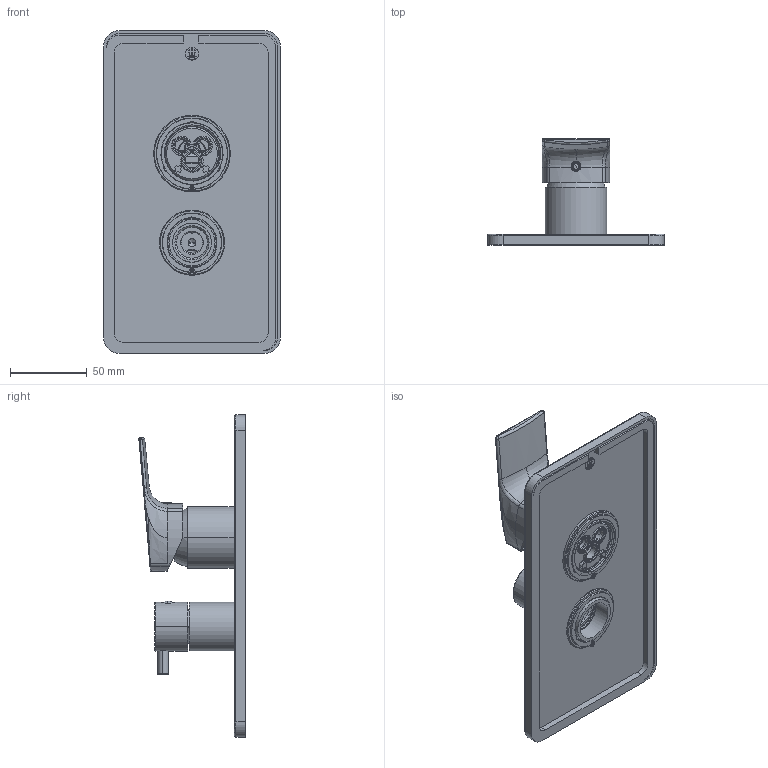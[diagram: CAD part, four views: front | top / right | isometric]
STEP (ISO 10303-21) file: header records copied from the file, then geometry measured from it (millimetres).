
FILE_DESCRIPTION((''),'2;1');
FILE_NAME('3D_SW0001','2025-10-07T11:34:08',('volponeff'),(''),'CREO PARAMETRIC BY PTC INC, 2022014','CREO PARAMETRIC BY PTC INC, 2022014','');
FILE_SCHEMA(('CONFIG_CONTROL_DESIGN'));
Products named in the file (1): 3D_SW0001
Bounding box: 115 x 69.24 x 210 mm (x, y, z)
Volume: 153921.5 mm3; surface area: 120457.1 mm2
Topology: 5 solids, 6 shells, 1351 faces, 3838 edges, 2500 vertices
Faces by surface type: cylinder 544, plane 426, bspline 132, torus 118, cone 113, sphere 18
Entity records: 109894 total; most frequent: CARTESIAN_POINT 75526, ORIENTED_EDGE 7624, DIRECTION 6800, EDGE_CURVE 3812, AXIS2_PLACEMENT_3D 2574, VERTEX_POINT 2500, VECTOR 1652, LINE 1652
